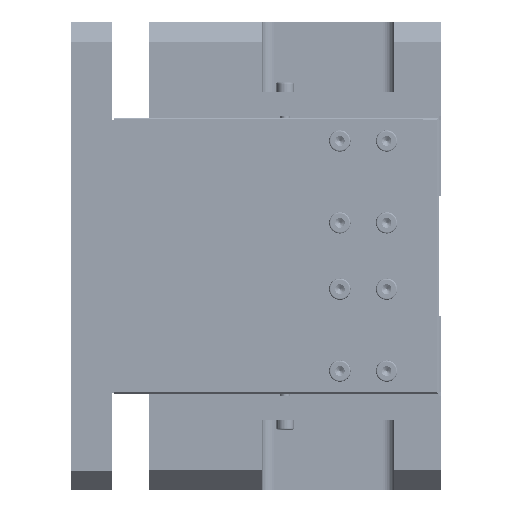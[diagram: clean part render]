
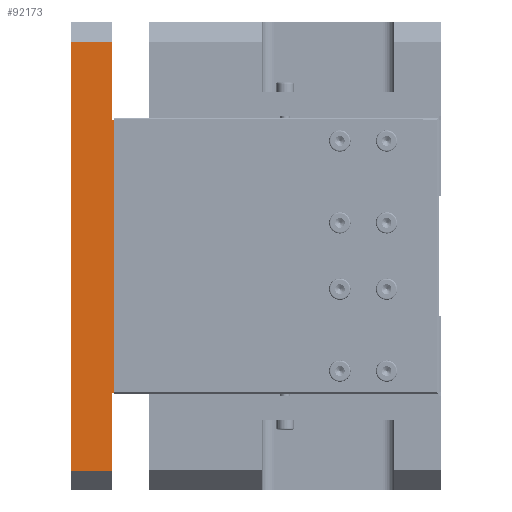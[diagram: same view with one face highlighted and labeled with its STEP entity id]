
A CAD part, left-side view. The second image highlights one B-rep face of the part: STEP entity #92173.
In plain terms, the highlighted planar face has unit normal (-1, 0, 0).
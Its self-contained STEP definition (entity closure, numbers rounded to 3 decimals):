
#996 = EDGE_CURVE ( 'NONE', #119519, #24400, #1189, .T. ) ;
#1189 = LINE ( 'NONE', #64296, #95448 ) ;
#3272 = VECTOR ( 'NONE', #92220, 1000. ) ;
#3529 = CARTESIAN_POINT ( 'NONE',  ( -60., 0.5, 35. ) ) ;
#4483 = VECTOR ( 'NONE', #79324, 1000. ) ;
#4896 = CARTESIAN_POINT ( 'NONE',  ( -60., 0.5, -35. ) ) ;
#5369 = VERTEX_POINT ( 'NONE', #24714 ) ;
#7194 = CARTESIAN_POINT ( 'NONE',  ( -60., 0.5, -55. ) ) ;
#9970 = ORIENTED_EDGE ( 'NONE', *, *, #108807, .T. ) ;
#10406 = LINE ( 'NONE', #40920, #13358 ) ;
#10685 = CARTESIAN_POINT ( 'NONE',  ( -60., 0.5, 55. ) ) ;
#13358 = VECTOR ( 'NONE', #116839, 1000. ) ;
#18846 = FACE_OUTER_BOUND ( 'NONE', #93822, .T. ) ;
#19536 = DIRECTION ( 'NONE',  ( 0., 0., -1. ) ) ;
#21053 = CARTESIAN_POINT ( 'NONE',  ( -60., 11., -55. ) ) ;
#22344 = VERTEX_POINT ( 'NONE', #7194 ) ;
#24400 = VERTEX_POINT ( 'NONE', #33393 ) ;
#24714 = CARTESIAN_POINT ( 'NONE',  ( -60., 0., 35. ) ) ;
#25714 = CARTESIAN_POINT ( 'NONE',  ( -60., 11., 55. ) ) ;
#26946 = CARTESIAN_POINT ( 'NONE',  ( -60., 0.5, -35. ) ) ;
#29257 = LINE ( 'NONE', #3529, #115123 ) ;
#33393 = CARTESIAN_POINT ( 'NONE',  ( -60., 0.5, 35. ) ) ;
#34030 = DIRECTION ( 'NONE',  ( 0., -1., 0. ) ) ;
#35091 = ORIENTED_EDGE ( 'NONE', *, *, #42226, .T. ) ;
#37556 = CARTESIAN_POINT ( 'NONE',  ( -60., 0., 60. ) ) ;
#39005 = ORIENTED_EDGE ( 'NONE', *, *, #996, .F. ) ;
#40826 = VERTEX_POINT ( 'NONE', #25714 ) ;
#40920 = CARTESIAN_POINT ( 'NONE',  ( -60., 11., 55. ) ) ;
#42226 = EDGE_CURVE ( 'NONE', #130007, #5369, #73221, .T. ) ;
#44364 = ORIENTED_EDGE ( 'NONE', *, *, #98112, .T. ) ;
#47207 = CARTESIAN_POINT ( 'NONE',  ( -60., 11., 60. ) ) ;
#48230 = LINE ( 'NONE', #26946, #3272 ) ;
#52980 = DIRECTION ( 'NONE',  ( 0., 0., -1. ) ) ;
#56497 = LINE ( 'NONE', #47207, #100560 ) ;
#56679 = LINE ( 'NONE', #121259, #4483 ) ;
#62119 = PLANE ( 'NONE',  #101280 ) ;
#64296 = CARTESIAN_POINT ( 'NONE',  ( -60., 0.5, 60. ) ) ;
#65812 = EDGE_CURVE ( 'NONE', #115468, #40826, #56497, .T. ) ;
#67824 = VERTEX_POINT ( 'NONE', #4896 ) ;
#70205 = DIRECTION ( 'NONE',  ( 0., 0., 1. ) ) ;
#73221 = LINE ( 'NONE', #37556, #113262 ) ;
#73471 = CARTESIAN_POINT ( 'NONE',  ( -60., 11., 60. ) ) ;
#77752 = DIRECTION ( 'NONE',  ( 0., 0., 1. ) ) ;
#79324 = DIRECTION ( 'NONE',  ( 0., -1., 0. ) ) ;
#84217 = LINE ( 'NONE', #86320, #91403 ) ;
#84357 = EDGE_CURVE ( 'NONE', #119519, #40826, #10406, .T. ) ;
#86320 = CARTESIAN_POINT ( 'NONE',  ( -60., 0.5, 60. ) ) ;
#91403 = VECTOR ( 'NONE', #52980, 1000. ) ;
#92173 = ADVANCED_FACE ( 'NONE', ( #18846 ), #62119, .F. ) ;
#92220 = DIRECTION ( 'NONE',  ( 0., -1., 0. ) ) ;
#93822 = EDGE_LOOP ( 'NONE', ( #124276, #39005, #94736, #104613, #44364, #124719, #9970, #35091 ) ) ;
#93886 = CARTESIAN_POINT ( 'NONE',  ( -60., 0., -35. ) ) ;
#94736 = ORIENTED_EDGE ( 'NONE', *, *, #84357, .T. ) ;
#95448 = VECTOR ( 'NONE', #96938, 1000. ) ;
#96938 = DIRECTION ( 'NONE',  ( 0., 0., -1. ) ) ;
#98112 = EDGE_CURVE ( 'NONE', #115468, #22344, #56679, .T. ) ;
#100560 = VECTOR ( 'NONE', #77752, 1000. ) ;
#101280 = AXIS2_PLACEMENT_3D ( 'NONE', #73471, #135981, #19536 ) ;
#104613 = ORIENTED_EDGE ( 'NONE', *, *, #65812, .F. ) ;
#105271 = EDGE_CURVE ( 'NONE', #67824, #22344, #84217, .T. ) ;
#108807 = EDGE_CURVE ( 'NONE', #67824, #130007, #48230, .T. ) ;
#113262 = VECTOR ( 'NONE', #70205, 1000. ) ;
#115123 = VECTOR ( 'NONE', #34030, 1000. ) ;
#115468 = VERTEX_POINT ( 'NONE', #21053 ) ;
#116839 = DIRECTION ( 'NONE',  ( 0., 1., 0. ) ) ;
#117799 = EDGE_CURVE ( 'NONE', #24400, #5369, #29257, .T. ) ;
#119519 = VERTEX_POINT ( 'NONE', #10685 ) ;
#121259 = CARTESIAN_POINT ( 'NONE',  ( -60., 11., -55. ) ) ;
#124276 = ORIENTED_EDGE ( 'NONE', *, *, #117799, .F. ) ;
#124719 = ORIENTED_EDGE ( 'NONE', *, *, #105271, .F. ) ;
#130007 = VERTEX_POINT ( 'NONE', #93886 ) ;
#135981 = DIRECTION ( 'NONE',  ( 1., 0., 0. ) ) ;
